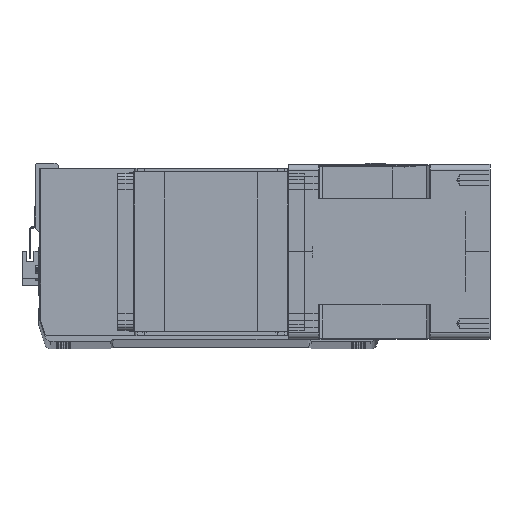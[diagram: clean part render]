
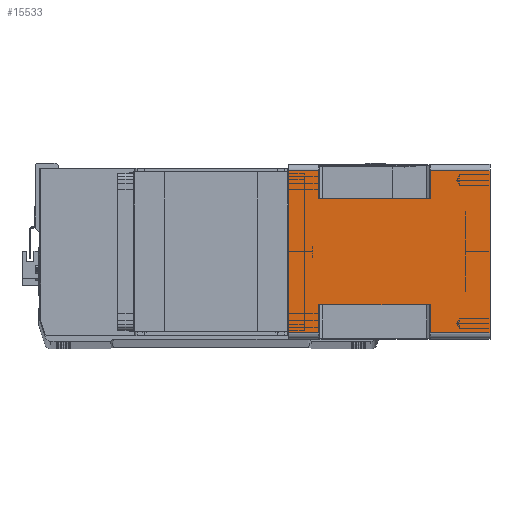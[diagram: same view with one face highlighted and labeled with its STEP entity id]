
A CAD part, top view. The second image highlights one B-rep face of the part: STEP entity #15533.
In plain terms, the highlighted planar face has unit normal (0, 0, 1) as drawn and (1, 0, 0) by its records, which use the part's own axes.
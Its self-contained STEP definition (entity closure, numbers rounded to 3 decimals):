
#151 = DIRECTION ( 'NONE',  ( 0., -1., 0. ) ) ;
#233 = CARTESIAN_POINT ( 'NONE',  ( 71., -66., 0. ) ) ;
#836 = VERTEX_POINT ( 'NONE', #4743 ) ;
#878 = DIRECTION ( 'NONE',  ( 1., 0., 0. ) ) ;
#988 = CARTESIAN_POINT ( 'NONE',  ( 71., 66., -164. ) ) ;
#1724 = EDGE_CURVE ( 'NONE', #31349, #1882, #13600, .T. ) ;
#1878 = LINE ( 'NONE', #10301, #14209 ) ;
#1882 = VERTEX_POINT ( 'NONE', #29557 ) ;
#2453 = VERTEX_POINT ( 'NONE', #27245 ) ;
#2636 = ORIENTED_EDGE ( 'NONE', *, *, #9827, .T. ) ;
#2758 = CARTESIAN_POINT ( 'NONE',  ( 71., -66., -164. ) ) ;
#3664 = VECTOR ( 'NONE', #151, 1000. ) ;
#3676 = DIRECTION ( 'NONE',  ( 0., 1., 0. ) ) ;
#3825 = ORIENTED_EDGE ( 'NONE', *, *, #16369, .T. ) ;
#3916 = VERTEX_POINT ( 'NONE', #35009 ) ;
#4089 = EDGE_CURVE ( 'NONE', #10338, #9429, #1878, .T. ) ;
#4743 = CARTESIAN_POINT ( 'NONE',  ( 71., -66., -115.5 ) ) ;
#4980 = VECTOR ( 'NONE', #8258, 1000. ) ;
#5900 = DIRECTION ( 'NONE',  ( 0., 1., 0. ) ) ;
#6322 = ORIENTED_EDGE ( 'NONE', *, *, #6702, .T. ) ;
#6404 = LINE ( 'NONE', #23817, #28046 ) ;
#6702 = EDGE_CURVE ( 'NONE', #31349, #10338, #7653, .T. ) ;
#7653 = LINE ( 'NONE', #30581, #21753 ) ;
#7807 = DIRECTION ( 'NONE',  ( 0., -1., 0. ) ) ;
#8258 = DIRECTION ( 'NONE',  ( 0., 1., 0. ) ) ;
#8423 = ORIENTED_EDGE ( 'NONE', *, *, #4089, .T. ) ;
#8924 = VECTOR ( 'NONE', #14505, 1000. ) ;
#9385 = LINE ( 'NONE', #33736, #8924 ) ;
#9429 = VERTEX_POINT ( 'NONE', #29583 ) ;
#9827 = EDGE_CURVE ( 'NONE', #12475, #3916, #23959, .T. ) ;
#10103 = AXIS2_PLACEMENT_3D ( 'NONE', #31519, #878, #17463 ) ;
#10301 = CARTESIAN_POINT ( 'NONE',  ( 71., 66., -164. ) ) ;
#10303 = VECTOR ( 'NONE', #20775, 1000. ) ;
#10330 = CARTESIAN_POINT ( 'NONE',  ( 71., -43., -115.5 ) ) ;
#10338 = VERTEX_POINT ( 'NONE', #15312 ) ;
#10679 = ORIENTED_EDGE ( 'NONE', *, *, #32488, .F. ) ;
#11331 = ORIENTED_EDGE ( 'NONE', *, *, #20085, .F. ) ;
#12475 = VERTEX_POINT ( 'NONE', #15841 ) ;
#13182 = EDGE_CURVE ( 'NONE', #31575, #9429, #22286, .T. ) ;
#13274 = EDGE_CURVE ( 'NONE', #14413, #2453, #19166, .T. ) ;
#13600 = LINE ( 'NONE', #25853, #27710 ) ;
#14209 = VECTOR ( 'NONE', #24443, 1000. ) ;
#14413 = VERTEX_POINT ( 'NONE', #10330 ) ;
#14505 = DIRECTION ( 'NONE',  ( 0., 0., 1. ) ) ;
#15312 = CARTESIAN_POINT ( 'NONE',  ( 71., 66., -24.5 ) ) ;
#15533 = ADVANCED_FACE ( 'NONE', ( #33295 ), #25611, .T. ) ;
#15841 = CARTESIAN_POINT ( 'NONE',  ( 71., 66., -164. ) ) ;
#16369 = EDGE_CURVE ( 'NONE', #3916, #1882, #31853, .T. ) ;
#17008 = DIRECTION ( 'NONE',  ( 0., 1., 0. ) ) ;
#17131 = ORIENTED_EDGE ( 'NONE', *, *, #13182, .F. ) ;
#17463 = DIRECTION ( 'NONE',  ( 0., 1., 0. ) ) ;
#17712 = DIRECTION ( 'NONE',  ( 0., 0., -1. ) ) ;
#18963 = ORIENTED_EDGE ( 'NONE', *, *, #20079, .T. ) ;
#19166 = LINE ( 'NONE', #31767, #33772 ) ;
#20079 = EDGE_CURVE ( 'NONE', #14413, #836, #6404, .T. ) ;
#20085 = EDGE_CURVE ( 'NONE', #29769, #31575, #35149, .T. ) ;
#20271 = ORIENTED_EDGE ( 'NONE', *, *, #13274, .F. ) ;
#20628 = CARTESIAN_POINT ( 'NONE',  ( 71., -43., -24.5 ) ) ;
#20775 = DIRECTION ( 'NONE',  ( 0., 0., 1. ) ) ;
#21753 = VECTOR ( 'NONE', #17008, 1000. ) ;
#21974 = CARTESIAN_POINT ( 'NONE',  ( 71., -66., -164. ) ) ;
#21976 = EDGE_CURVE ( 'NONE', #29769, #2453, #31591, .T. ) ;
#22286 = LINE ( 'NONE', #34253, #27622 ) ;
#22419 = CARTESIAN_POINT ( 'NONE',  ( 71., 43., -115.5 ) ) ;
#23269 = CARTESIAN_POINT ( 'NONE',  ( 71., -66., -164. ) ) ;
#23817 = CARTESIAN_POINT ( 'NONE',  ( 71., -66., -115.5 ) ) ;
#23959 = LINE ( 'NONE', #988, #10303 ) ;
#24443 = DIRECTION ( 'NONE',  ( 0., 0., 1. ) ) ;
#25611 = PLANE ( 'NONE',  #10103 ) ;
#25691 = LINE ( 'NONE', #2758, #4980 ) ;
#25853 = CARTESIAN_POINT ( 'NONE',  ( 71., 43., -164. ) ) ;
#26622 = CARTESIAN_POINT ( 'NONE',  ( 71., 43., -24.5 ) ) ;
#26738 = VECTOR ( 'NONE', #35099, 1000. ) ;
#27245 = CARTESIAN_POINT ( 'NONE',  ( 71., -43., -24.5 ) ) ;
#27622 = VECTOR ( 'NONE', #5900, 1000. ) ;
#27710 = VECTOR ( 'NONE', #17712, 1000. ) ;
#28046 = VECTOR ( 'NONE', #7807, 1000. ) ;
#29557 = CARTESIAN_POINT ( 'NONE',  ( 71., 43., -115.5 ) ) ;
#29583 = CARTESIAN_POINT ( 'NONE',  ( 71., 66., 0. ) ) ;
#29761 = ORIENTED_EDGE ( 'NONE', *, *, #36297, .T. ) ;
#29769 = VERTEX_POINT ( 'NONE', #33007 ) ;
#30581 = CARTESIAN_POINT ( 'NONE',  ( 71., -66., -24.5 ) ) ;
#31349 = VERTEX_POINT ( 'NONE', #26622 ) ;
#31519 = CARTESIAN_POINT ( 'NONE',  ( 71., -66., -164. ) ) ;
#31575 = VERTEX_POINT ( 'NONE', #233 ) ;
#31591 = LINE ( 'NONE', #20628, #32070 ) ;
#31613 = EDGE_LOOP ( 'NONE', ( #20271, #18963, #10679, #29761, #2636, #3825, #32605, #6322, #8423, #17131, #11331, #32828 ) ) ;
#31767 = CARTESIAN_POINT ( 'NONE',  ( 71., -43., -164. ) ) ;
#31853 = LINE ( 'NONE', #22419, #3664 ) ;
#32070 = VECTOR ( 'NONE', #3676, 1000. ) ;
#32488 = EDGE_CURVE ( 'NONE', #33987, #836, #9385, .T. ) ;
#32605 = ORIENTED_EDGE ( 'NONE', *, *, #1724, .F. ) ;
#32828 = ORIENTED_EDGE ( 'NONE', *, *, #21976, .T. ) ;
#33007 = CARTESIAN_POINT ( 'NONE',  ( 71., -66., -24.5 ) ) ;
#33295 = FACE_OUTER_BOUND ( 'NONE', #31613, .T. ) ;
#33736 = CARTESIAN_POINT ( 'NONE',  ( 71., -66., -164. ) ) ;
#33772 = VECTOR ( 'NONE', #34633, 1000. ) ;
#33987 = VERTEX_POINT ( 'NONE', #23269 ) ;
#34253 = CARTESIAN_POINT ( 'NONE',  ( 71., -66., 0. ) ) ;
#34633 = DIRECTION ( 'NONE',  ( 0., 0., 1. ) ) ;
#35009 = CARTESIAN_POINT ( 'NONE',  ( 71., 66., -115.5 ) ) ;
#35099 = DIRECTION ( 'NONE',  ( 0., 0., 1. ) ) ;
#35149 = LINE ( 'NONE', #21974, #26738 ) ;
#36297 = EDGE_CURVE ( 'NONE', #33987, #12475, #25691, .T. ) ;
